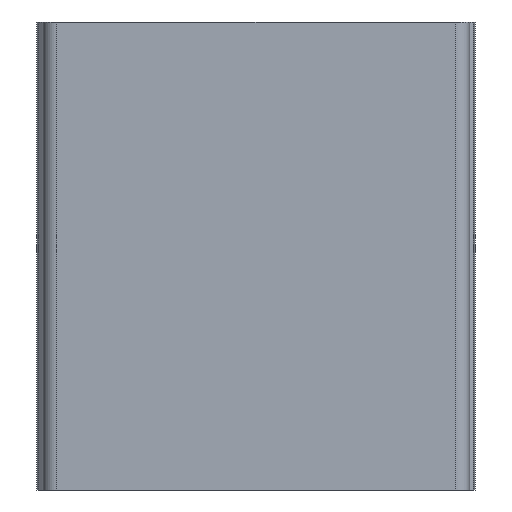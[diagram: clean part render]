
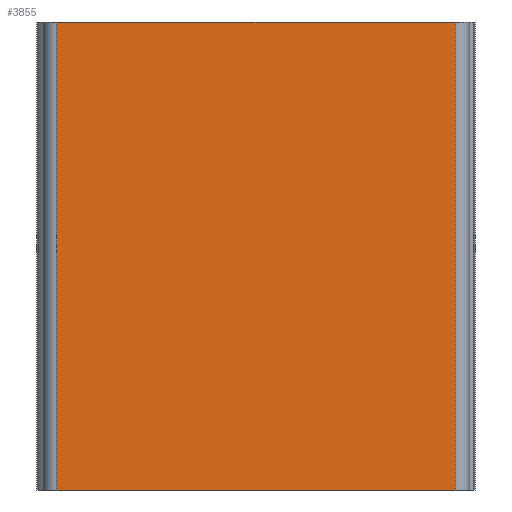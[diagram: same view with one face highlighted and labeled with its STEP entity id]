
A CAD part, front view. The second image highlights one B-rep face of the part: STEP entity #3855.
In plain terms, the highlighted planar face has unit normal (0, -1, 0).
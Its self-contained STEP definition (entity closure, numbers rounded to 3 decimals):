
#130 = CARTESIAN_POINT ( 'NONE',  ( -58.769, 0., 69. ) ) ;
#334 = DIRECTION ( 'NONE',  ( 1., 0., 0. ) ) ;
#422 = CARTESIAN_POINT ( 'NONE',  ( -58.769, 0., -69. ) ) ;
#779 = EDGE_LOOP ( 'NONE', ( #4295, #5022, #1228, #1758 ) ) ;
#1228 = ORIENTED_EDGE ( 'NONE', *, *, #4253, .F. ) ;
#1362 = LINE ( 'NONE', #4162, #4280 ) ;
#1506 = PLANE ( 'NONE',  #3833 ) ;
#1642 = EDGE_CURVE ( 'NONE', #4666, #3651, #1362, .T. ) ;
#1758 = ORIENTED_EDGE ( 'NONE', *, *, #5137, .T. ) ;
#1841 = CARTESIAN_POINT ( 'NONE',  ( 58.769, 0., -69. ) ) ;
#1899 = VECTOR ( 'NONE', #4875, 1000. ) ;
#1919 = VERTEX_POINT ( 'NONE', #2250 ) ;
#1986 = DIRECTION ( 'NONE',  ( -1., 0., 0. ) ) ;
#2196 = CARTESIAN_POINT ( 'NONE',  ( -58.769, 0., 69. ) ) ;
#2250 = CARTESIAN_POINT ( 'NONE',  ( -58.769, 0., -69. ) ) ;
#2435 = LINE ( 'NONE', #5572, #3072 ) ;
#2592 = LINE ( 'NONE', #2196, #1899 ) ;
#2749 = DIRECTION ( 'NONE',  ( 0., 0., -1. ) ) ;
#2810 = DIRECTION ( 'NONE',  ( 1., 0., 0. ) ) ;
#3072 = VECTOR ( 'NONE', #2810, 1000. ) ;
#3231 = EDGE_CURVE ( 'NONE', #1919, #3651, #4122, .T. ) ;
#3344 = DIRECTION ( 'NONE',  ( 0., 1., 0. ) ) ;
#3651 = VERTEX_POINT ( 'NONE', #1841 ) ;
#3829 = CARTESIAN_POINT ( 'NONE',  ( 58.769, 0., 69. ) ) ;
#3833 = AXIS2_PLACEMENT_3D ( 'NONE', #130, #3344, #1986 ) ;
#3855 = ADVANCED_FACE ( 'NONE', ( #4247 ), #1506, .F. ) ;
#4122 = LINE ( 'NONE', #422, #5280 ) ;
#4162 = CARTESIAN_POINT ( 'NONE',  ( 58.769, 0., 69. ) ) ;
#4247 = FACE_OUTER_BOUND ( 'NONE', #779, .T. ) ;
#4253 = EDGE_CURVE ( 'NONE', #5885, #4666, #2435, .T. ) ;
#4280 = VECTOR ( 'NONE', #2749, 1000. ) ;
#4295 = ORIENTED_EDGE ( 'NONE', *, *, #3231, .T. ) ;
#4377 = CARTESIAN_POINT ( 'NONE',  ( -58.769, 0., 69. ) ) ;
#4666 = VERTEX_POINT ( 'NONE', #3829 ) ;
#4875 = DIRECTION ( 'NONE',  ( 0., 0., -1. ) ) ;
#5022 = ORIENTED_EDGE ( 'NONE', *, *, #1642, .F. ) ;
#5137 = EDGE_CURVE ( 'NONE', #5885, #1919, #2592, .T. ) ;
#5280 = VECTOR ( 'NONE', #334, 1000. ) ;
#5572 = CARTESIAN_POINT ( 'NONE',  ( -58.769, 0., 69. ) ) ;
#5885 = VERTEX_POINT ( 'NONE', #4377 ) ;
